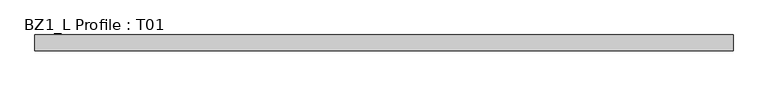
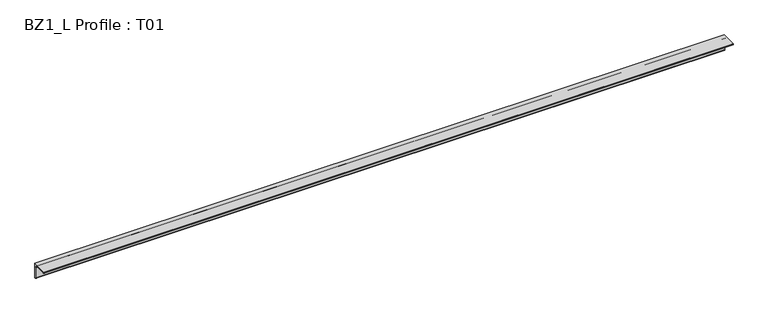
"""IFC4 building model written with IfcOpenShell, lengths in millimetres: beam geometry, BZ1_L Profile : T01."""

import ifcopenshell
import ifcopenshell.guid

model = None  # the IFC model being written
_history = None  # IfcOwnerHistory: only IFC2X3 demands one
_inside = {}  # id of a spatial element -> (the spatial element, [elements in it])
_under = {}  # id of a project, library or spatial element -> (it, [spatial elements below it])
_declared = {}  # id of a project -> (the project, [libraries it declares])
_typed = {}  # id of a type object -> (the type object, [elements of that type])
_made_of = {}  # id of a material, layer set ... -> (it, [elements and type objects made of it])


def new_model(schema):
    """Start an empty IFC model of exactly this schema.

    Asked for "IFC4X3", IfcOpenShell would pick the latest addendum, in which some entities
    have other attributes; the version numbers below select the first issue.
    IFC2X3 requires an IfcOwnerHistory on every rooted entity: one is made here for all.
    """
    global model, _history
    if schema == "IFC4X3":
        model = ifcopenshell.file(schema_version=(4, 3, 0, 0))
    else:
        model = ifcopenshell.file(schema=schema)
    _inside.clear()
    _under.clear()
    _declared.clear()
    _typed.clear()
    _made_of.clear()
    _history = None
    if model.schema == "IFC2X3":
        org = make("IfcOrganization", Name="unknown")
        user = make(
            "IfcPersonAndOrganization",
            ThePerson=make("IfcPerson", FamilyName="unknown"),
            TheOrganization=org,
        )
        app = make(
            "IfcApplication",
            ApplicationDeveloper=org,
            Version="unknown",
            ApplicationFullName="unknown",
            ApplicationIdentifier="unknown",
        )
        _history = make(
            "IfcOwnerHistory",
            OwningUser=user,
            OwningApplication=app,
            ChangeAction="ADDED",
            CreationDate=0,
        )
    return model


def make(cls, **values):
    """One entity of the class cls with the attributes given. An attribute that is None is left unset."""
    return model.create_entity(
        cls, **{name: value for name, value in values.items() if value is not None}
    )


def rooted(cls, **values):
    """An entity with a GlobalId (a new one), such as an element, a storey or a relation."""
    return make(cls, GlobalId=ifcopenshell.guid.new(), OwnerHistory=_history, **values)


def si_unit(unit_type, name, prefix=None):
    """IfcSIUnit, for example si_unit("LENGTHUNIT", "METRE", prefix="MILLI")."""
    return make("IfcSIUnit", UnitType=unit_type, Prefix=prefix, Name=name)


def assignment(units):
    """IfcUnitAssignment: the units of a project."""
    return None if units is None else make("IfcUnitAssignment", Units=units)


def point(xyz):
    """IfcCartesianPoint."""
    return None if xyz is None else make("IfcCartesianPoint", Coordinates=xyz)


def direction(xyz):
    """IfcDirection."""
    return None if xyz is None else make("IfcDirection", DirectionRatios=xyz)


def frame(location, z_axis=None, x_axis=None):
    """IfcAxis2Placement3D, a coordinate frame: its origin and axes. An axis left out is left unset."""
    return make(
        "IfcAxis2Placement3D",
        Location=point(location),
        Axis=direction(z_axis),
        RefDirection=direction(x_axis),
    )


def frame_2d(location, x_axis=None):
    """IfcAxis2Placement2D, a coordinate frame in the plane: its origin and x axis."""
    return make(
        "IfcAxis2Placement2D", Location=point(location), RefDirection=direction(x_axis)
    )


def origin():
    """The frame at (0, 0, 0) with its axes left unset."""
    return frame((0.0, 0.0, 0.0))


def place(relative_to, where):
    """IfcLocalPlacement: puts the frame where relative to a parent placement (None: the world)."""
    return make(
        "IfcLocalPlacement", PlacementRelTo=relative_to, RelativePlacement=where
    )


def context(
    kind, dimensions, precision=None, world=None, true_north=None, identifier=None
):
    """IfcGeometricRepresentationContext, for example the 3D "Model" context."""
    return make(
        "IfcGeometricRepresentationContext",
        ContextIdentifier=identifier,
        ContextType=kind,
        CoordinateSpaceDimension=dimensions,
        Precision=precision,
        WorldCoordinateSystem=world,
        TrueNorth=true_north,
    )


def project(units=None, contexts=None):
    """IfcProject with its units and contexts."""
    return rooted(
        "IfcProject",
        Name="project",
        RepresentationContexts=contexts,
        UnitsInContext=assignment(units),
    )


def spatial(cls, under=None, at=None, **own):
    """A site, building, storey or space (cls), placed at a placement, below another one or the project."""
    s = rooted(cls, ObjectPlacement=at, **own)
    if under is not None:
        _under.setdefault(under.id(), (under, []))[1].append(s)
    return s


def polyline(points):
    """IfcPolyline through the points."""
    return make("IfcPolyline", Points=[point(p) for p in points])


def circle_curve(where, radius):
    """IfcCircle in the frame where."""
    return make("IfcCircle", Position=where, Radius=radius)


def trimmed(basis, trim1, trim2, sense, master):
    """IfcTrimmedCurve: the piece of a basis curve between two trims."""
    return make(
        "IfcTrimmedCurve",
        BasisCurve=basis,
        Trim1=trim1,
        Trim2=trim2,
        SenseAgreement=sense,
        MasterRepresentation=master,
    )


def segment(curve, same_sense, transition):
    """IfcCompositeCurveSegment."""
    return make(
        "IfcCompositeCurveSegment",
        Transition=transition,
        SameSense=same_sense,
        ParentCurve=curve,
    )


def composite_curve(segments, self_intersect=None):
    """IfcCompositeCurve: segments joined end to end."""
    return make("IfcCompositeCurve", Segments=segments, SelfIntersect=self_intersect)


def outline(outer, holes=None, kind="AREA"):
    """IfcArbitraryClosedProfileDef: a profile drawn as a closed curve; with holes, ...WithVoids."""
    if holes is None:
        return make("IfcArbitraryClosedProfileDef", ProfileType=kind, OuterCurve=outer)
    return make(
        "IfcArbitraryProfileDefWithVoids",
        ProfileType=kind,
        OuterCurve=outer,
        InnerCurves=holes,
    )


def extrude(swept, where, along, depth):
    """IfcExtrudedAreaSolid: the profile swept, set in the frame where, extruded along a direction by depth."""
    return make(
        "IfcExtrudedAreaSolid",
        SweptArea=swept,
        Position=where,
        ExtrudedDirection=direction(along),
        Depth=depth,
    )


def shape(context_of_items, identifier, shape_type, items):
    """IfcShapeRepresentation: the items that make up one representation, for example the "Body"."""
    return make(
        "IfcShapeRepresentation",
        ContextOfItems=context_of_items,
        RepresentationIdentifier=identifier,
        RepresentationType=shape_type,
        Items=items,
    )


def source(mapping_origin, context_of_items, identifier, shape_type, items):
    """IfcRepresentationMap: a shape defined once, which mapped items show again and again."""
    return make(
        "IfcRepresentationMap",
        MappingOrigin=mapping_origin,
        MappedRepresentation=shape(context_of_items, identifier, shape_type, items),
    )


def transform(
    local_origin,
    x_axis=None,
    y_axis=None,
    z_axis=None,
    scale=None,
    scale2=None,
    scale3=None,
    uniform=True,
):
    """IfcCartesianTransformationOperator3D, or its non-uniform kind. x_axis, y_axis, z_axis: its Axis1, 2, 3."""
    if uniform:
        return make(
            "IfcCartesianTransformationOperator3D",
            Axis1=direction(x_axis),
            Axis2=direction(y_axis),
            LocalOrigin=point(local_origin),
            Scale=scale,
            Axis3=direction(z_axis),
        )
    return make(
        "IfcCartesianTransformationOperator3DnonUniform",
        Axis1=direction(x_axis),
        Axis2=direction(y_axis),
        LocalOrigin=point(local_origin),
        Scale=scale,
        Axis3=direction(z_axis),
        Scale2=scale2,
        Scale3=scale3,
    )


def mapped(mapping_source, mapping_target):
    """IfcMappedItem: shows the shape of a source again, moved by a transform."""
    return make(
        "IfcMappedItem", MappingSource=mapping_source, MappingTarget=mapping_target
    )


def made_of(thing, what):
    """Note that an element or type object is made of a material, layer set ...; save() writes the relation."""
    if what is not None:
        _made_of.setdefault(what.id(), (what, []))[1].append(thing)
    return thing


def element(
    cls,
    number,
    at=None,
    inside=None,
    cuts=None,
    type_object=None,
    material=None,
    context=None,
    identifier="Body",
    shape_type=None,
    held_by="IfcProductDefinitionShape",
    body=None,
    shapes=None,
    **own,
):
    """One element of the class cls, such as IfcWall. Its Tag is "e" and its number.

    at: its placement. inside: the storey or other place that contains it. cuts: it is an
    opening in that element (IfcRelVoidsElement). A single representation is given by context,
    identifier, shape_type and body (its items); several are given by shapes. held_by: the class
    of the entity that holds the representations. save() writes the other relations.
    """
    e = rooted(cls, Tag="e%d" % number, ObjectPlacement=at, **own)
    if body is not None:
        shapes = [shape(context, identifier, shape_type, body)]
    if shapes is not None:
        e.Representation = make(held_by, Representations=shapes)
    if inside is not None:
        _inside.setdefault(inside.id(), (inside, []))[1].append(e)
    if cuts is not None:
        rooted(
            "IfcRelVoidsElement", RelatingBuildingElement=cuts, RelatedOpeningElement=e
        )
    if type_object is not None:
        _typed.setdefault(type_object.id(), (type_object, []))[1].append(e)
    return made_of(e, material)


def aggregate(whole, parts):
    """IfcRelAggregates: a whole, such as a stair, and the parts it consists of."""
    return rooted("IfcRelAggregates", RelatingObject=whole, RelatedObjects=parts)


def save(model, path):
    """Write the relations noted so far, then the file.

    IfcRelAggregates (storeys below a building ...), IfcRelContainedInSpatialStructure (elements
    in a storey), IfcRelDefinesByType, IfcRelAssociatesMaterial and IfcRelDeclares: one each for
    every whole, place, type object, material and project.
    """
    for whole, parts in _under.values():
        aggregate(whole, parts)
    for where, things in _inside.values():
        rooted(
            "IfcRelContainedInSpatialStructure",
            RelatedElements=things,
            RelatingStructure=where,
        )
    for kind, things in _typed.values():
        rooted("IfcRelDefinesByType", RelatedObjects=things, RelatingType=kind)
    for what, things in _made_of.values():
        rooted("IfcRelAssociatesMaterial", RelatedObjects=things, RelatingMaterial=what)
    for by, libraries in _declared.values():
        rooted("IfcRelDeclares", RelatingContext=by, RelatedDefinitions=libraries)
    model.write(path)


def bz1_l_profile_t01_9d23476b(model_context):
    return source(origin(), model_context, "Body", "SweptSolid", [
        extrude(outline(composite_curve([segment(trimmed(circle_curve(frame_2d((-41.5, 3.5)), 3.5), [point((-41.5, 0.0))], [point((-45.0, 3.5))], False, "CARTESIAN"), True, "CONTINUOUS"), segment(polyline([(-45.0, 3.5), (-45.0, 5.0), (5.0, 5.0), (5.0, -45.0), (3.5, -45.0)]), True, "CONTINUOUS"), segment(trimmed(circle_curve(frame_2d((3.5, -41.5)), 3.5), [point((3.5, -45.0))], [point((0.0, -41.5))], False, "CARTESIAN"), True, "CONTINUOUS"), segment(polyline([(0.0, -41.5), (0.0, -7.0)]), True, "CONTINUOUS"), segment(trimmed(circle_curve(frame_2d((-7.0, -7.0)), 7.0), [point((0.0, -7.0))], [point((-7.0, 0.0))], True, "CARTESIAN"), True, "CONTINUOUS"), segment(polyline([(-7.0, 0.0), (-41.5, 0.0)]), True, "CONTINUOUS")], self_intersect=False)), frame((0.0, 0.0, 0.0), z_axis=(1.0, 0.0, 0.0), x_axis=(0.0, 1.0, 0.0)), (0.0, 0.0, 1.0), 2200.0),
    ])


if __name__ == "__main__":
    model = new_model("IFC4")
    model_context = context("Model", 3, world=origin())
    ifc_project = project(units=[si_unit("LENGTHUNIT", "METRE", prefix="MILLI")], contexts=[model_context])
    site = spatial("IfcSite", under=ifc_project)
    building = spatial("IfcBuilding", under=site)
    placement = place(None, origin())
    bz1_l_profile_t01_shape = bz1_l_profile_t01_9d23476b(model_context)
    element("IfcBeam", 1, ObjectType="BZ1_L Profile : T01", at=placement, inside=building, context=model_context, shape_type="MappedRepresentation", body=[
        mapped(bz1_l_profile_t01_shape, transform((0.0, 0.0, 0.0), x_axis=(1.0, 0.0, 0.0), y_axis=(0.0, 1.0, 0.0), z_axis=(0.0, 0.0, 1.0))),
    ])
    save(model, "model.ifc")
